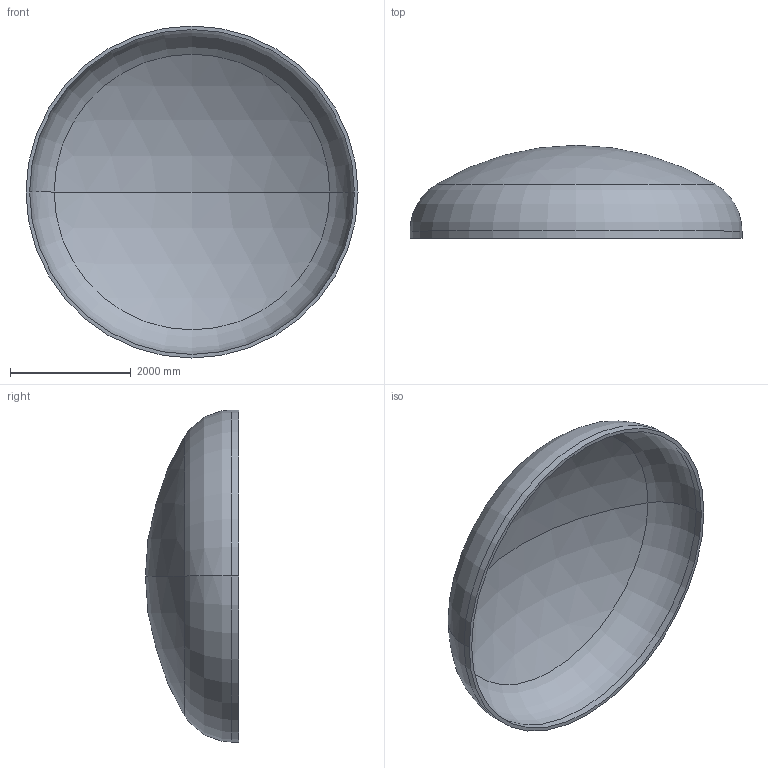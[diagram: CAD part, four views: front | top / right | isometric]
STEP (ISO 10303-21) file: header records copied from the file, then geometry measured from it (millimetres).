
FILE_DESCRIPTION (( 'STEP AP203' ), '1' );
FILE_NAME ('DIN 28013 Korbbogenform_-_Boden DIN 28013 - 5500 x 120 - I - s=60.step', '2016-07-04T10:34:32', ( '' ), ( '' ), 'SwSTEP 2.0', 'SolidWorks 2013', '' );
FILE_SCHEMA (( 'CONFIG_CONTROL_DESIGN' ));
Length unit declared in the file: millimetre
Products named in the file (1): DIN 28013 Korbbogenform_-_Boden DIN 28013 - 5500 x 120 - I - s=60
Bounding box: 5500 x 1541.25 x 5500 mm (x, y, z)
Volume: 2068163842.9 mm3; surface area: 69971724.4 mm2
Topology: 1 solids, 1 shells, 13 faces, 24 edges, 14 vertices
Faces by surface type: torus 4, cylinder 4, sphere 4, plane 1
Entity records: 407 total; most frequent: DIRECTION 72, CARTESIAN_POINT 52, ORIENTED_EDGE 48, AXIS2_PLACEMENT_3D 34, EDGE_CURVE 24, CIRCLE 20, EDGE_LOOP 14, VERTEX_POINT 14
